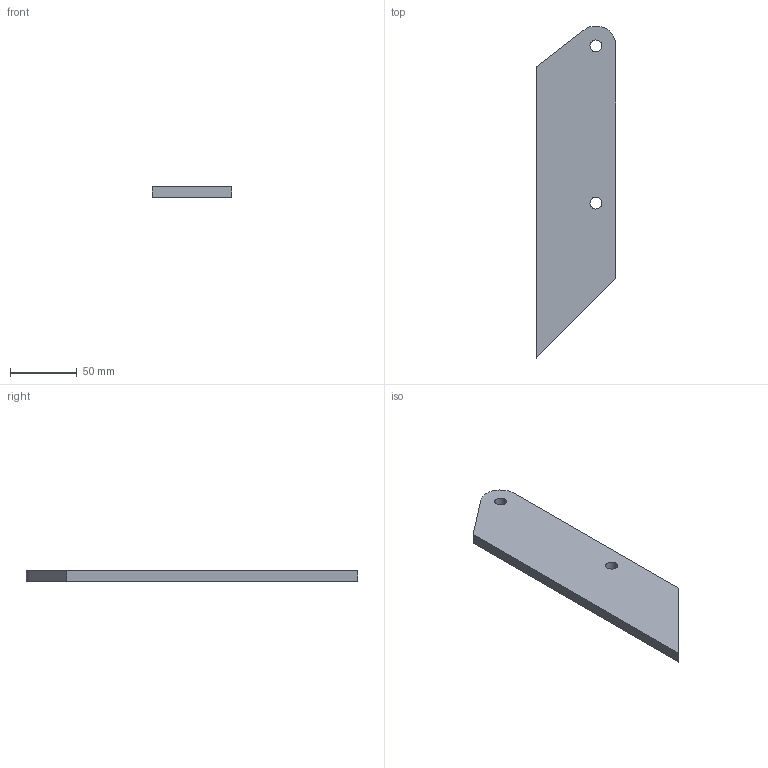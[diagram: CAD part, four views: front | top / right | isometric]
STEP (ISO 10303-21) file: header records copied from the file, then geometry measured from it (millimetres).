
FILE_DESCRIPTION(/* description */ (''),/* implementation_level */ '2;1');
FILE_NAME(/* name */ 'Pos143-Plaatwerk D= 8-S235JRG2-3st',/* time_stamp */ '2024-08-06T13:37:44+02:00',/* author */ (''),/* organization */ (''),/* preprocessor_version */ 'ST-DEVELOPER v16.5',/* originating_system */ 'HiCAD 2024 2901.2 Build 361',/* authorisation */ '');
FILE_SCHEMA (('AUTOMOTIVE_DESIGN { 1 0 10303 214 1 1 1 1 }'));
Length unit declared in the file: millimetre
Products named in the file (1): Pos143-Plaatwerk D= 8-S235JRG2-3st
Bounding box: 60 x 249.59 x 8 mm (x, y, z)
Volume: 99079.2 mm3; surface area: 29678 mm2
Topology: 1 solids, 1 shells, 9 faces, 23 edges, 16 vertices
Faces by surface type: plane 6, cylinder 3
Full cylindrical faces by diameter (mm): 9 x2
Entity records: 467 total; most frequent: DIRECTION 43, CARTESIAN_POINT 42, PRESENTATION_STYLE_ASSIGNMENT 39, COLOUR_RGB 39, DRAUGHTING_PRE_DEFINED_CURVE_FONT 38, CURVE_STYLE 38, OVER_RIDING_STYLED_ITEM 38, ORIENTED_EDGE 38
